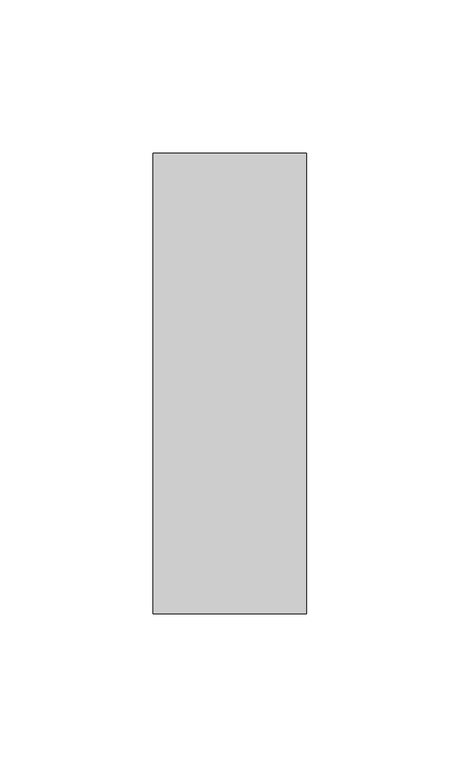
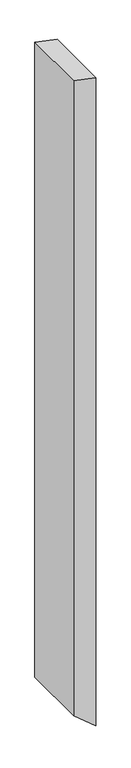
"""IFC4 building model written with IfcOpenShell, lengths in millimetres: member geometry, Прямоугольный импост : 50 x 150 мм."""

import ifcopenshell
import ifcopenshell.guid

model = None  # the IFC model being written
_history = None  # IfcOwnerHistory: only IFC2X3 demands one
_inside = {}  # id of a spatial element -> (the spatial element, [elements in it])
_under = {}  # id of a project, library or spatial element -> (it, [spatial elements below it])
_declared = {}  # id of a project -> (the project, [libraries it declares])
_typed = {}  # id of a type object -> (the type object, [elements of that type])
_made_of = {}  # id of a material, layer set ... -> (it, [elements and type objects made of it])


def new_model(schema):
    """Start an empty IFC model of exactly this schema.

    Asked for "IFC4X3", IfcOpenShell would pick the latest addendum, in which some entities
    have other attributes; the version numbers below select the first issue.
    IFC2X3 requires an IfcOwnerHistory on every rooted entity: one is made here for all.
    """
    global model, _history
    if schema == "IFC4X3":
        model = ifcopenshell.file(schema_version=(4, 3, 0, 0))
    else:
        model = ifcopenshell.file(schema=schema)
    _inside.clear()
    _under.clear()
    _declared.clear()
    _typed.clear()
    _made_of.clear()
    _history = None
    if model.schema == "IFC2X3":
        org = make("IfcOrganization", Name="unknown")
        user = make(
            "IfcPersonAndOrganization",
            ThePerson=make("IfcPerson", FamilyName="unknown"),
            TheOrganization=org,
        )
        app = make(
            "IfcApplication",
            ApplicationDeveloper=org,
            Version="unknown",
            ApplicationFullName="unknown",
            ApplicationIdentifier="unknown",
        )
        _history = make(
            "IfcOwnerHistory",
            OwningUser=user,
            OwningApplication=app,
            ChangeAction="ADDED",
            CreationDate=0,
        )
    return model


def make(cls, **values):
    """One entity of the class cls with the attributes given. An attribute that is None is left unset."""
    return model.create_entity(
        cls, **{name: value for name, value in values.items() if value is not None}
    )


def rooted(cls, **values):
    """An entity with a GlobalId (a new one), such as an element, a storey or a relation."""
    return make(cls, GlobalId=ifcopenshell.guid.new(), OwnerHistory=_history, **values)


def si_unit(unit_type, name, prefix=None):
    """IfcSIUnit, for example si_unit("LENGTHUNIT", "METRE", prefix="MILLI")."""
    return make("IfcSIUnit", UnitType=unit_type, Prefix=prefix, Name=name)


def assignment(units):
    """IfcUnitAssignment: the units of a project."""
    return None if units is None else make("IfcUnitAssignment", Units=units)


def point(xyz):
    """IfcCartesianPoint."""
    return None if xyz is None else make("IfcCartesianPoint", Coordinates=xyz)


def direction(xyz):
    """IfcDirection."""
    return None if xyz is None else make("IfcDirection", DirectionRatios=xyz)


def frame(location, z_axis=None, x_axis=None):
    """IfcAxis2Placement3D, a coordinate frame: its origin and axes. An axis left out is left unset."""
    return make(
        "IfcAxis2Placement3D",
        Location=point(location),
        Axis=direction(z_axis),
        RefDirection=direction(x_axis),
    )


def origin():
    """The frame at (0, 0, 0) with its axes left unset."""
    return frame((0.0, 0.0, 0.0))


def place(relative_to, where):
    """IfcLocalPlacement: puts the frame where relative to a parent placement (None: the world)."""
    return make(
        "IfcLocalPlacement", PlacementRelTo=relative_to, RelativePlacement=where
    )


def context(
    kind, dimensions, precision=None, world=None, true_north=None, identifier=None
):
    """IfcGeometricRepresentationContext, for example the 3D "Model" context."""
    return make(
        "IfcGeometricRepresentationContext",
        ContextIdentifier=identifier,
        ContextType=kind,
        CoordinateSpaceDimension=dimensions,
        Precision=precision,
        WorldCoordinateSystem=world,
        TrueNorth=true_north,
    )


def project(units=None, contexts=None):
    """IfcProject with its units and contexts."""
    return rooted(
        "IfcProject",
        Name="project",
        RepresentationContexts=contexts,
        UnitsInContext=assignment(units),
    )


def spatial(cls, under=None, at=None, **own):
    """A site, building, storey or space (cls), placed at a placement, below another one or the project."""
    s = rooted(cls, ObjectPlacement=at, **own)
    if under is not None:
        _under.setdefault(under.id(), (under, []))[1].append(s)
    return s


def polyline(points):
    """IfcPolyline through the points."""
    return make("IfcPolyline", Points=[point(p) for p in points])


def outline(outer, holes=None, kind="AREA"):
    """IfcArbitraryClosedProfileDef: a profile drawn as a closed curve; with holes, ...WithVoids."""
    if holes is None:
        return make("IfcArbitraryClosedProfileDef", ProfileType=kind, OuterCurve=outer)
    return make(
        "IfcArbitraryProfileDefWithVoids",
        ProfileType=kind,
        OuterCurve=outer,
        InnerCurves=holes,
    )


def extrude(swept, where, along, depth):
    """IfcExtrudedAreaSolid: the profile swept, set in the frame where, extruded along a direction by depth."""
    return make(
        "IfcExtrudedAreaSolid",
        SweptArea=swept,
        Position=where,
        ExtrudedDirection=direction(along),
        Depth=depth,
    )


def shape(context_of_items, identifier, shape_type, items):
    """IfcShapeRepresentation: the items that make up one representation, for example the "Body"."""
    return make(
        "IfcShapeRepresentation",
        ContextOfItems=context_of_items,
        RepresentationIdentifier=identifier,
        RepresentationType=shape_type,
        Items=items,
    )


def source(mapping_origin, context_of_items, identifier, shape_type, items):
    """IfcRepresentationMap: a shape defined once, which mapped items show again and again."""
    return make(
        "IfcRepresentationMap",
        MappingOrigin=mapping_origin,
        MappedRepresentation=shape(context_of_items, identifier, shape_type, items),
    )


def transform(
    local_origin,
    x_axis=None,
    y_axis=None,
    z_axis=None,
    scale=None,
    scale2=None,
    scale3=None,
    uniform=True,
):
    """IfcCartesianTransformationOperator3D, or its non-uniform kind. x_axis, y_axis, z_axis: its Axis1, 2, 3."""
    if uniform:
        return make(
            "IfcCartesianTransformationOperator3D",
            Axis1=direction(x_axis),
            Axis2=direction(y_axis),
            LocalOrigin=point(local_origin),
            Scale=scale,
            Axis3=direction(z_axis),
        )
    return make(
        "IfcCartesianTransformationOperator3DnonUniform",
        Axis1=direction(x_axis),
        Axis2=direction(y_axis),
        LocalOrigin=point(local_origin),
        Scale=scale,
        Axis3=direction(z_axis),
        Scale2=scale2,
        Scale3=scale3,
    )


def mapped(mapping_source, mapping_target):
    """IfcMappedItem: shows the shape of a source again, moved by a transform."""
    return make(
        "IfcMappedItem", MappingSource=mapping_source, MappingTarget=mapping_target
    )


def made_of(thing, what):
    """Note that an element or type object is made of a material, layer set ...; save() writes the relation."""
    if what is not None:
        _made_of.setdefault(what.id(), (what, []))[1].append(thing)
    return thing


def element(
    cls,
    number,
    at=None,
    inside=None,
    cuts=None,
    type_object=None,
    material=None,
    context=None,
    identifier="Body",
    shape_type=None,
    held_by="IfcProductDefinitionShape",
    body=None,
    shapes=None,
    **own,
):
    """One element of the class cls, such as IfcWall. Its Tag is "e" and its number.

    at: its placement. inside: the storey or other place that contains it. cuts: it is an
    opening in that element (IfcRelVoidsElement). A single representation is given by context,
    identifier, shape_type and body (its items); several are given by shapes. held_by: the class
    of the entity that holds the representations. save() writes the other relations.
    """
    e = rooted(cls, Tag="e%d" % number, ObjectPlacement=at, **own)
    if body is not None:
        shapes = [shape(context, identifier, shape_type, body)]
    if shapes is not None:
        e.Representation = make(held_by, Representations=shapes)
    if inside is not None:
        _inside.setdefault(inside.id(), (inside, []))[1].append(e)
    if cuts is not None:
        rooted(
            "IfcRelVoidsElement", RelatingBuildingElement=cuts, RelatedOpeningElement=e
        )
    if type_object is not None:
        _typed.setdefault(type_object.id(), (type_object, []))[1].append(e)
    return made_of(e, material)


def aggregate(whole, parts):
    """IfcRelAggregates: a whole, such as a stair, and the parts it consists of."""
    return rooted("IfcRelAggregates", RelatingObject=whole, RelatedObjects=parts)


def save(model, path):
    """Write the relations noted so far, then the file.

    IfcRelAggregates (storeys below a building ...), IfcRelContainedInSpatialStructure (elements
    in a storey), IfcRelDefinesByType, IfcRelAssociatesMaterial and IfcRelDeclares: one each for
    every whole, place, type object, material and project.
    """
    for whole, parts in _under.values():
        aggregate(whole, parts)
    for where, things in _inside.values():
        rooted(
            "IfcRelContainedInSpatialStructure",
            RelatedElements=things,
            RelatingStructure=where,
        )
    for kind, things in _typed.values():
        rooted("IfcRelDefinesByType", RelatedObjects=things, RelatingType=kind)
    for what, things in _made_of.values():
        rooted("IfcRelAssociatesMaterial", RelatedObjects=things, RelatingMaterial=what)
    for by, libraries in _declared.values():
        rooted("IfcRelDeclares", RelatingContext=by, RelatedDefinitions=libraries)
    model.write(path)


def member_810d9e74(model_context):
    return source(origin(), model_context, "Body", "SweptSolid", [
        extrude(outline(polyline([(0.0, 0.0), (10.6661538, -50.0), (-1491.7167791, -50.0), (-1532.3544178, 0.0), (0.0, 0.0)])), frame((0.0, -75.0, 0.0), z_axis=(0.0, 1.0, 0.0), x_axis=(0.0, 0.0, 1.0)), (0.0, 0.0, 1.0), 150.0),
    ])


if __name__ == "__main__":
    model = new_model("IFC4")
    model_context = context("Model", 3, world=origin())
    ifc_project = project(units=[si_unit("LENGTHUNIT", "METRE", prefix="MILLI")], contexts=[model_context])
    site = spatial("IfcSite", under=ifc_project)
    building = spatial("IfcBuilding", under=site)
    placement = place(None, origin())
    member_shape = member_810d9e74(model_context)
    element("IfcMember", 1, ObjectType="Прямоугольный импост : 50 x 150 мм", at=placement, inside=building, context=model_context, shape_type="MappedRepresentation", body=[
        mapped(member_shape, transform((0.0, 0.0, 0.0), x_axis=(1.0, 0.0, 0.0), y_axis=(0.0, 1.0, 0.0), z_axis=(0.0, 0.0, 1.0))),
    ])
    save(model, "model.ifc")
